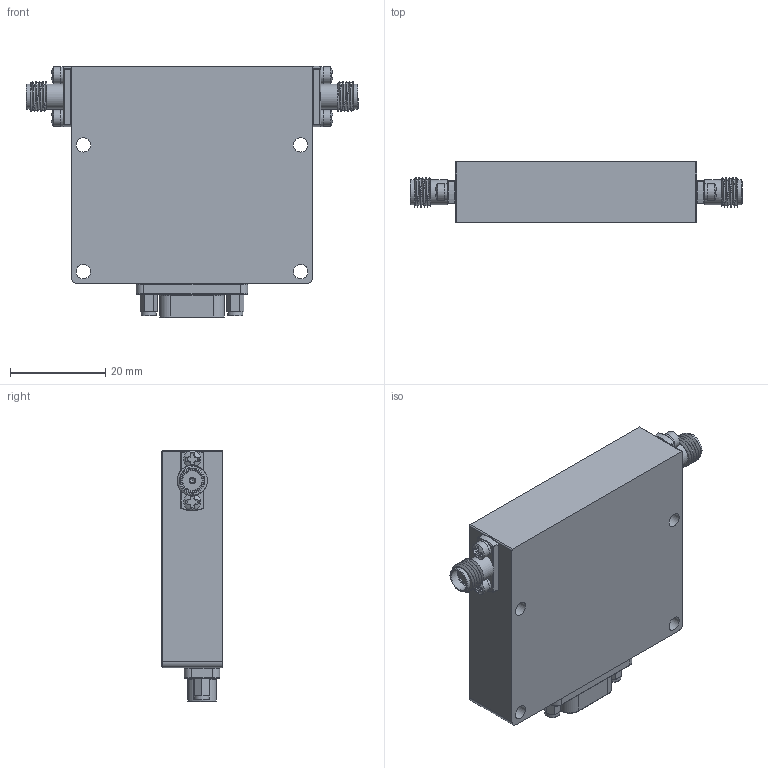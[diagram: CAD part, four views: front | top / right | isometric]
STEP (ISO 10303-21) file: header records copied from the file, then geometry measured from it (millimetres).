
FILE_DESCRIPTION (( 'STEP AP214' ), '1' );
FILE_NAME ('DTA-0R5G18G-60-CD-1.STEP', '2024-01-16T19:51:01', ( '' ), ( '' ), 'SwSTEP 2.0', 'SolidWorks 2023', '' );
FILE_SCHEMA (( 'AUTOMOTIVE_DESIGN' ));
Length unit declared in the file: inch
Products named in the file (1): DTA-0R5G18G-60-CD-1
Bounding box: 69.85 x 12.83 x 52.86 mm (x, y, z)
Volume: 30905 mm3; surface area: 14755.1 mm2
Topology: 17 solids, 17 shells, 1034 faces, 3840 edges, 3018 vertices
Faces by surface type: plane 488, cylinder 272, cone 129, bspline 79, torus 46, sphere 20
Full cylindrical faces by diameter (mm): 0.305 x4, 0.559 x17, 0.584 x15, 0.838 x30, 1.016 x3, 1.27 x2, 1.783 x20, 2.184 x4, 2.362 x2, 2.591 x4, 3.048 x4, 3.15 x2, 3.302 x2, 3.556 x4, 4.191 x4, 4.597 x2, 5.283 x4
Entity records: 70154 total; most frequent: CARTESIAN_POINT 27168, ORIENTED_EDGE 6828, DIRECTION 4906, EDGE_CURVE 3414, VERTEX_POINT 2849, AXIS2_PLACEMENT_3D 1693, LINE 1520, VECTOR 1520
